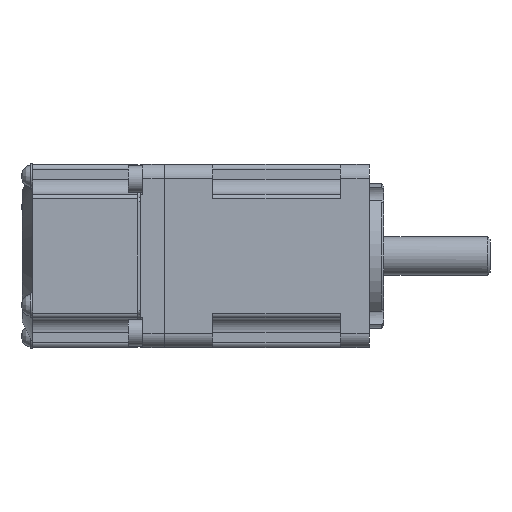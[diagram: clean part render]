
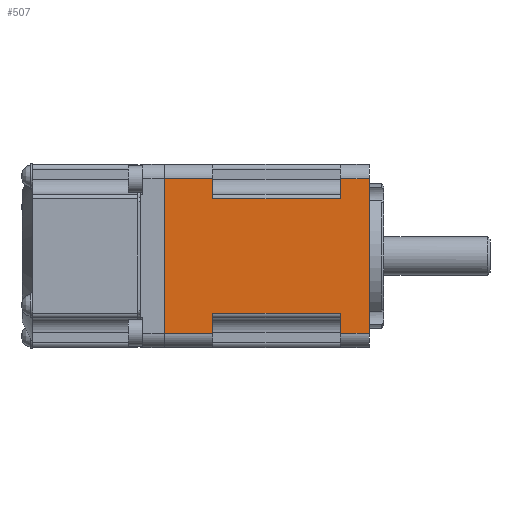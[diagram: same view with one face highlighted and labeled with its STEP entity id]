
A CAD part, front view. The second image highlights one B-rep face of the part: STEP entity #507.
In plain terms, the highlighted planar face has unit normal (0, -1, 0).
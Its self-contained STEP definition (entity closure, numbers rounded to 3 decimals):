
#507 = ADVANCED_FACE( '', ( #1366 ), #1367, .F. );
#1366 = FACE_OUTER_BOUND( '', #2934, .T. );
#1367 = PLANE( '', #2935 );
#2934 = EDGE_LOOP( '', ( #5393, #5394, #5395, #5396, #5397, #5398, #5399, #5400, #5401, #5402, #5403, #5404 ) );
#2935 = AXIS2_PLACEMENT_3D( '', #5405, #5406, #5407 );
#5393 = ORIENTED_EDGE( '', *, *, #9636, .F. );
#5394 = ORIENTED_EDGE( '', *, *, #9292, .T. );
#5395 = ORIENTED_EDGE( '', *, *, #9666, .T. );
#5396 = ORIENTED_EDGE( '', *, *, #9650, .F. );
#5397 = ORIENTED_EDGE( '', *, *, #9664, .T. );
#5398 = ORIENTED_EDGE( '', *, *, #9656, .T. );
#5399 = ORIENTED_EDGE( '', *, *, #9676, .F. );
#5400 = ORIENTED_EDGE( '', *, *, #9580, .F. );
#5401 = ORIENTED_EDGE( '', *, *, #9655, .T. );
#5402 = ORIENTED_EDGE( '', *, *, #9653, .T. );
#5403 = ORIENTED_EDGE( '', *, *, #9644, .F. );
#5404 = ORIENTED_EDGE( '', *, *, #9639, .F. );
#5405 = CARTESIAN_POINT( '', ( 6., -19., 16. ) );
#5406 = DIRECTION( '', ( 0., 1., 0. ) );
#5407 = DIRECTION( '', ( 0., 0., 1. ) );
#9292 = EDGE_CURVE( '', #10876, #10874, #10877, .T. );
#9580 = EDGE_CURVE( '', #11385, #11387, #11388, .T. );
#9636 = EDGE_CURVE( '', #10876, #11484, #11485, .T. );
#9639 = EDGE_CURVE( '', #11484, #11487, #11489, .T. );
#9644 = EDGE_CURVE( '', #11487, #11495, #11497, .T. );
#9650 = EDGE_CURVE( '', #11505, #11507, #11508, .T. );
#9653 = EDGE_CURVE( '', #11512, #11495, #11513, .T. );
#9655 = EDGE_CURVE( '', #11385, #11512, #11515, .T. );
#9656 = EDGE_CURVE( '', #11516, #11517, #11518, .T. );
#9664 = EDGE_CURVE( '', #11505, #11516, #11530, .T. );
#9666 = EDGE_CURVE( '', #10874, #11507, #11532, .T. );
#9676 = EDGE_CURVE( '', #11387, #11517, #11547, .T. );
#10874 = VERTEX_POINT( '', #13510 );
#10876 = VERTEX_POINT( '', #13512 );
#10877 = LINE( '', #13513, #13514 );
#11385 = VERTEX_POINT( '', #14282 );
#11387 = VERTEX_POINT( '', #14284 );
#11388 = LINE( '', #14285, #14286 );
#11484 = VERTEX_POINT( '', #14412 );
#11485 = LINE( '', #14413, #14414 );
#11487 = VERTEX_POINT( '', #14416 );
#11489 = LINE( '', #14418, #14419 );
#11495 = VERTEX_POINT( '', #14426 );
#11497 = LINE( '', #14428, #14429 );
#11505 = VERTEX_POINT( '', #14438 );
#11507 = VERTEX_POINT( '', #14440 );
#11508 = LINE( '', #14441, #14442 );
#11512 = VERTEX_POINT( '', #14447 );
#11513 = LINE( '', #14448, #14449 );
#11515 = LINE( '', #14451, #14452 );
#11516 = VERTEX_POINT( '', #14453 );
#11517 = VERTEX_POINT( '', #14454 );
#11518 = LINE( '', #14455, #14456 );
#11530 = LINE( '', #14470, #14471 );
#11532 = LINE( '', #14474, #14475 );
#11547 = LINE( '', #14495, #14496 );
#13510 = CARTESIAN_POINT( '', ( -36.48, -19., -16. ) );
#13512 = CARTESIAN_POINT( '', ( -36.48, -19., 16. ) );
#13513 = CARTESIAN_POINT( '', ( -36.48, -19., 16. ) );
#13514 = VECTOR( '', #17465, 1000. );
#14282 = CARTESIAN_POINT( '', ( 6., -19., 16. ) );
#14284 = CARTESIAN_POINT( '', ( 6., -19., -16. ) );
#14285 = CARTESIAN_POINT( '', ( 6., -19., 16. ) );
#14286 = VECTOR( '', #17997, 1000. );
#14412 = CARTESIAN_POINT( '', ( -26.5, -19., 16. ) );
#14413 = CARTESIAN_POINT( '', ( -41.5, -19., 16. ) );
#14414 = VECTOR( '', #18100, 1000. );
#14416 = CARTESIAN_POINT( '', ( -26.5, -19., 11.85 ) );
#14418 = CARTESIAN_POINT( '', ( -26.5, -19., 16. ) );
#14419 = VECTOR( '', #18107, 1000. );
#14426 = CARTESIAN_POINT( '', ( 0., -19., 11.85 ) );
#14428 = CARTESIAN_POINT( '', ( -26.5, -19., 11.85 ) );
#14429 = VECTOR( '', #18118, 1000. );
#14438 = CARTESIAN_POINT( '', ( -26.5, -19., -11.85 ) );
#14440 = CARTESIAN_POINT( '', ( -26.5, -19., -16. ) );
#14441 = CARTESIAN_POINT( '', ( -26.5, -19., 16. ) );
#14442 = VECTOR( '', #18132, 1000. );
#14447 = CARTESIAN_POINT( '', ( 0., -19., 16. ) );
#14448 = CARTESIAN_POINT( '', ( 0., -19., 16. ) );
#14449 = VECTOR( '', #18137, 1000. );
#14451 = CARTESIAN_POINT( '', ( 6., -19., 16. ) );
#14452 = VECTOR( '', #18141, 1000. );
#14453 = CARTESIAN_POINT( '', ( 0., -19., -11.85 ) );
#14454 = CARTESIAN_POINT( '', ( 0., -19., -16. ) );
#14455 = CARTESIAN_POINT( '', ( 0., -19., 16. ) );
#14456 = VECTOR( '', #18142, 1000. );
#14470 = CARTESIAN_POINT( '', ( -26.5, -19., -11.85 ) );
#14471 = VECTOR( '', #18160, 1000. );
#14474 = CARTESIAN_POINT( '', ( -41.5, -19., -16. ) );
#14475 = VECTOR( '', #18162, 1000. );
#14495 = CARTESIAN_POINT( '', ( 6., -19., -16. ) );
#14496 = VECTOR( '', #18180, 1000. );
#17465 = DIRECTION( '', ( 0., 0., -1. ) );
#17997 = DIRECTION( '', ( 0., 0., -1. ) );
#18100 = DIRECTION( '', ( 1., 0., 0. ) );
#18107 = DIRECTION( '', ( 0., 0., -1. ) );
#18118 = DIRECTION( '', ( 1., 0., 0. ) );
#18132 = DIRECTION( '', ( 0., 0., -1. ) );
#18137 = DIRECTION( '', ( 0., 0., -1. ) );
#18141 = DIRECTION( '', ( -1., 0., 0. ) );
#18142 = DIRECTION( '', ( 0., 0., -1. ) );
#18160 = DIRECTION( '', ( 1., 0., 0. ) );
#18162 = DIRECTION( '', ( 1., 0., 0. ) );
#18180 = DIRECTION( '', ( -1., 0., 0. ) );
